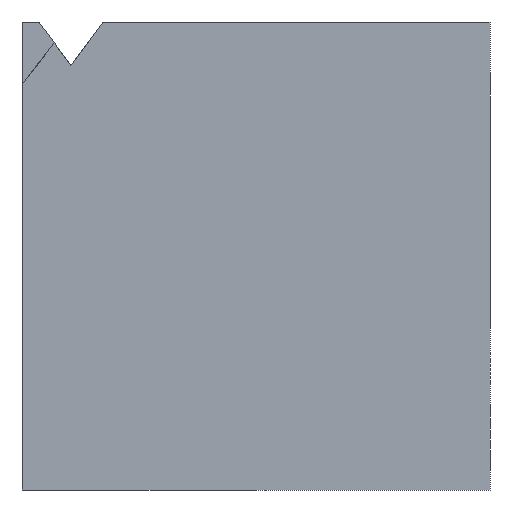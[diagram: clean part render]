
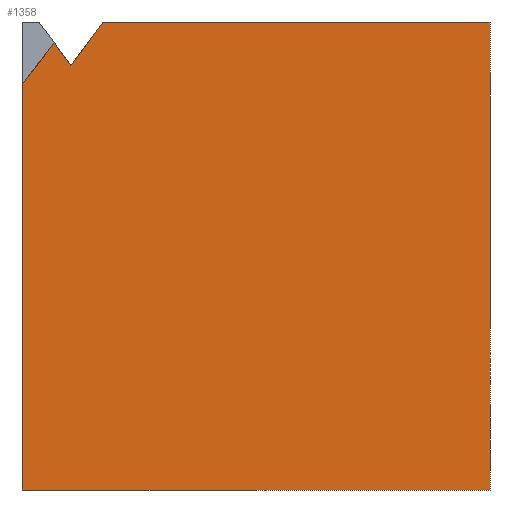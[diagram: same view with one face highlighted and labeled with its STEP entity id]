
A CAD part, left-side view. The second image highlights one B-rep face of the part: STEP entity #1358.
In plain terms, the highlighted planar face has unit normal (-1, 0, 0).
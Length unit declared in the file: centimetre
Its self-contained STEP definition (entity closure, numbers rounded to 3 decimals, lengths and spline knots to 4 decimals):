
#5 = CARTESIAN_POINT ( 'NONE',  ( 0., 827.262, 1000. ) ) ;
#12 = CARTESIAN_POINT ( 'NONE',  ( 0., 1000., 1000. ) ) ;
#40 = CARTESIAN_POINT ( 'NONE',  ( 0., 1000., 866.9424 ) ) ;
#88 = LINE ( 'NONE', #1033, #955 ) ;
#123 = LINE ( 'NONE', #248, #1397 ) ;
#125 = CARTESIAN_POINT ( 'NONE',  ( 0., 827.262, 1000. ) ) ;
#135 = LINE ( 'NONE', #1080, #1225 ) ;
#147 = VERTEX_POINT ( 'NONE', #1378 ) ;
#155 = ORIENTED_EDGE ( 'NONE', *, *, #610, .T. ) ;
#175 = ORIENTED_EDGE ( 'NONE', *, *, #651, .F. ) ;
#180 = CARTESIAN_POINT ( 'NONE',  ( 0., 895.3065, 906.8379 ) ) ;
#188 = VERTEX_POINT ( 'NONE', #180 ) ;
#190 = CARTESIAN_POINT ( 'NONE',  ( 0., 930.7177, 955.3205 ) ) ;
#240 = DIRECTION ( 'NONE',  ( 0., -0.59, -0.808 ) ) ;
#248 = CARTESIAN_POINT ( 'NONE',  ( 0., 895.3065, 906.8379 ) ) ;
#253 = VECTOR ( 'NONE', #470, 100. ) ;
#270 = DIRECTION ( 'NONE',  ( 0., -1., 0. ) ) ;
#325 = CARTESIAN_POINT ( 'NONE',  ( 0., 895.6921, 1000. ) ) ;
#348 = VECTOR ( 'NONE', #586, 100. ) ;
#387 = CARTESIAN_POINT ( 'NONE',  ( 0., 1000., 0. ) ) ;
#470 = DIRECTION ( 'NONE',  ( 0., 0., -1. ) ) ;
#477 = VECTOR ( 'NONE', #1317, 100. ) ;
#560 = DIRECTION ( 'NONE',  ( 0., 0., -1. ) ) ;
#578 = VERTEX_POINT ( 'NONE', #40 ) ;
#581 = DIRECTION ( 'NONE',  ( 1., 0., 0. ) ) ;
#586 = DIRECTION ( 'NONE',  ( 0., -0.59, 0.808 ) ) ;
#610 = EDGE_CURVE ( 'NONE', #769, #147, #135, .T. ) ;
#650 = DIRECTION ( 'NONE',  ( 0., -0.617, 0.787 ) ) ;
#651 = EDGE_CURVE ( 'NONE', #188, #1299, #1190, .T. ) ;
#758 = VERTEX_POINT ( 'NONE', #190 ) ;
#769 = VERTEX_POINT ( 'NONE', #387 ) ;
#796 = AXIS2_PLACEMENT_3D ( 'NONE', #942, #581, #1048 ) ;
#830 = ORIENTED_EDGE ( 'NONE', *, *, #1177, .F. ) ;
#835 = CARTESIAN_POINT ( 'NONE',  ( 0., 1000., 1000. ) ) ;
#942 = CARTESIAN_POINT ( 'NONE',  ( 0., 1000., 1000. ) ) ;
#945 = VERTEX_POINT ( 'NONE', #1057 ) ;
#955 = VECTOR ( 'NONE', #560, 100. ) ;
#1033 = CARTESIAN_POINT ( 'NONE',  ( 0., 0., 1000. ) ) ;
#1048 = DIRECTION ( 'NONE',  ( 0., 0., -1. ) ) ;
#1057 = CARTESIAN_POINT ( 'NONE',  ( 0., 0., 1000. ) ) ;
#1067 = LINE ( 'NONE', #12, #253 ) ;
#1080 = CARTESIAN_POINT ( 'NONE',  ( 0., 1000., 0. ) ) ;
#1130 = LINE ( 'NONE', #325, #1274 ) ;
#1138 = EDGE_CURVE ( 'NONE', #945, #147, #88, .T. ) ;
#1177 = EDGE_CURVE ( 'NONE', #578, #758, #1130, .T. ) ;
#1178 = PLANE ( 'NONE',  #796 ) ;
#1185 = LINE ( 'NONE', #835, #477 ) ;
#1187 = ORIENTED_EDGE ( 'NONE', *, *, #1392, .F. ) ;
#1190 = LINE ( 'NONE', #125, #348 ) ;
#1225 = VECTOR ( 'NONE', #270, 100. ) ;
#1274 = VECTOR ( 'NONE', #650, 100. ) ;
#1289 = EDGE_LOOP ( 'NONE', ( #1480, #175, #1187, #830, #1293, #155, #1407 ) ) ;
#1293 = ORIENTED_EDGE ( 'NONE', *, *, #1405, .T. ) ;
#1299 = VERTEX_POINT ( 'NONE', #5 ) ;
#1309 = FACE_OUTER_BOUND ( 'NONE', #1289, .T. ) ;
#1317 = DIRECTION ( 'NONE',  ( 0., -1., 0. ) ) ;
#1358 = ADVANCED_FACE ( 'NONE', ( #1309 ), #1178, .F. ) ;
#1378 = CARTESIAN_POINT ( 'NONE',  ( 0., 0., 0. ) ) ;
#1383 = EDGE_CURVE ( 'NONE', #1299, #945, #1185, .T. ) ;
#1392 = EDGE_CURVE ( 'NONE', #758, #188, #123, .T. ) ;
#1397 = VECTOR ( 'NONE', #240, 100. ) ;
#1405 = EDGE_CURVE ( 'NONE', #578, #769, #1067, .T. ) ;
#1407 = ORIENTED_EDGE ( 'NONE', *, *, #1138, .F. ) ;
#1480 = ORIENTED_EDGE ( 'NONE', *, *, #1383, .F. ) ;
